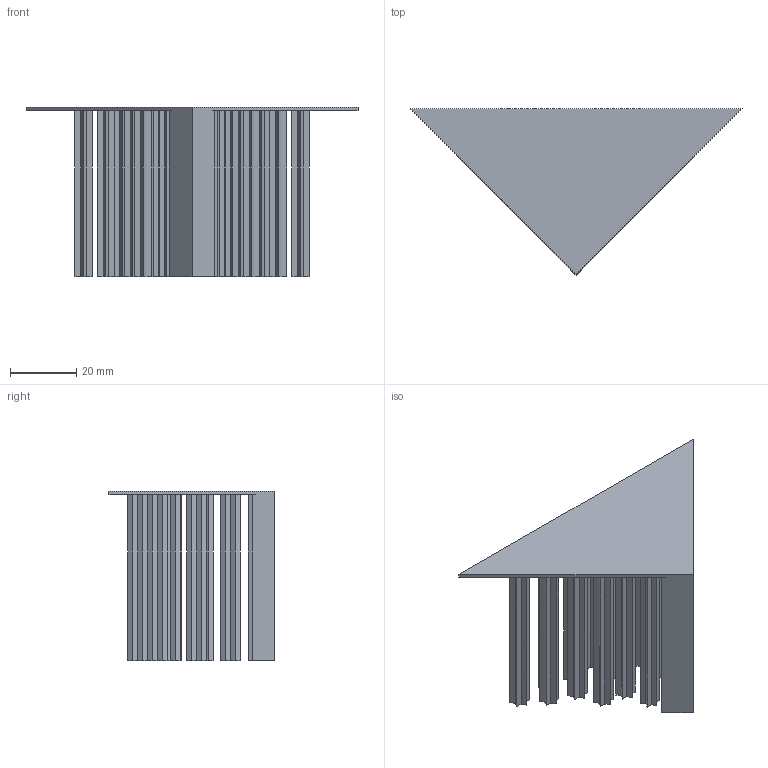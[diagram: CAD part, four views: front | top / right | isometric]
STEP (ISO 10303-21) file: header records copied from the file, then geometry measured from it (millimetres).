
FILE_DESCRIPTION(/* description */ ('STEP AP214','CAx-IF Rec.Pracs.---User Defined Attributes---1.5---2016-08-15'),/* implementation_level */ '2;1');
FILE_NAME(/* name */ '6ae31edef048ba5c842f5d0d',/* time_stamp */ '2026-10-29T10:24:31Z',/* author */ (''),/* organization */ (''),/* preprocessor_version */ 'ST-DEVELOPER v20',/* originating_system */ 'ONSHAPE BY PTC INC, 1.222',/* authorisation */ ' ');
FILE_SCHEMA (('AUTOMOTIVE_DESIGN {1 0 10303 214 3 1 1}'));
Length unit declared in the file: metre
Products named in the file (1): Part 1
Bounding box: 100 x 50 x 51 mm (x, y, z)
Volume: 19059 mm3; surface area: 28239.6 mm2
Topology: 1 solids, 1 shells, 270 faces, 744 edges, 496 vertices
Faces by surface type: plane 270
Entity records: 8438 total; most frequent: CARTESIAN_POINT 1511, ORIENTED_EDGE 1488, DIRECTION 1286, EDGE_CURVE 744, LINE 744, VECTOR 744, VERTEX_POINT 496, EDGE_LOOP 290
